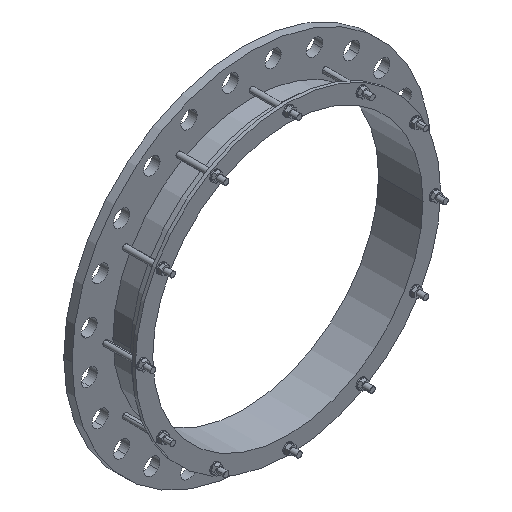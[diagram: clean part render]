
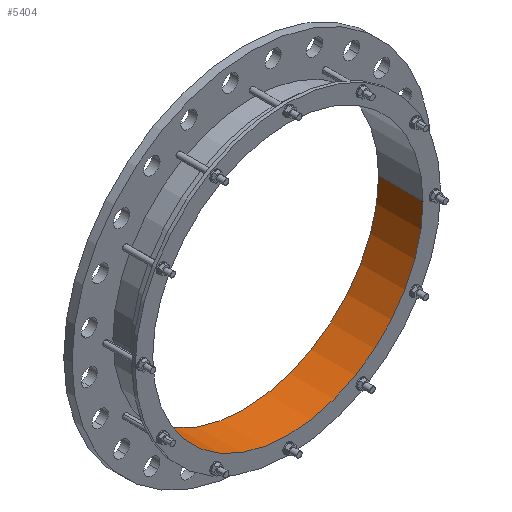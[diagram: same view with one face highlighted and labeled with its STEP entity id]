
A CAD part, isometric view. The second image highlights one B-rep face of the part: STEP entity #5404.
In plain terms, the highlighted cylindrical face has radius 408 mm (diameter 816 mm), a partial arc.
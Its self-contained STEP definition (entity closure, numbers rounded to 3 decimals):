
#7=CARTESIAN_POINT('',(0.,25.,0.));
#8=DIRECTION('',(0.,1.,0.));
#9=DIRECTION('',(1.,0.,0.));
#10=AXIS2_PLACEMENT_3D('',#7,#8,#9);
#1481=CARTESIAN_POINT('',(0.,-109.,0.));
#1482=DIRECTION('',(0.,1.,0.));
#1483=DIRECTION('',(1.,0.,0.));
#1484=AXIS2_PLACEMENT_3D('',#1481,#1482,#1483);
#1486=DIRECTION('',(0.,1.,0.));
#1487=VECTOR('',#1486,134.);
#1488=CARTESIAN_POINT('',(408.,-109.,0.));
#1489=LINE('',#1488,#1487);
#1490=DIRECTION('',(0.,1.,0.));
#1491=VECTOR('',#1490,134.);
#1492=CARTESIAN_POINT('',(-408.,-109.,0.));
#1493=LINE('',#1492,#1491);
#3676=CARTESIAN_POINT('',(408.,-109.,0.));
#3677=CARTESIAN_POINT('',(408.,25.,0.));
#3678=VERTEX_POINT('',#3676);
#3679=VERTEX_POINT('',#3677);
#3688=CARTESIAN_POINT('',(-408.,-109.,0.));
#3689=CARTESIAN_POINT('',(-408.,25.,0.));
#3690=VERTEX_POINT('',#3688);
#3691=VERTEX_POINT('',#3689);
#5391=CARTESIAN_POINT('',(0.,-115.7,0.));
#5392=DIRECTION('',(0.,1.,0.));
#5393=DIRECTION('',(-1.,0.,0.));
#5394=AXIS2_PLACEMENT_3D('',#5391,#5392,#5393);
#5395=CYLINDRICAL_SURFACE('',#5394,408.);
#5397=ORIENTED_EDGE('',*,*,#5396,.F.);
#5398=ORIENTED_EDGE('',*,*,#5314,.T.);
#5400=ORIENTED_EDGE('',*,*,#5399,.T.);
#5401=ORIENTED_EDGE('',*,*,#4517,.F.);
#5402=EDGE_LOOP('',(#5397,#5398,#5400,#5401));
#5403=FACE_OUTER_BOUND('',#5402,.F.);
#5404=ADVANCED_FACE('',(#5403),#5395,.F.);
#11=CIRCLE('',#10,408.);
#1485=CIRCLE('',#1484,408.);
#4517=EDGE_CURVE('',#3679,#3691,#11,.T.);
#5314=EDGE_CURVE('',#3678,#3690,#1485,.T.);
#5396=EDGE_CURVE('',#3678,#3679,#1489,.T.);
#5399=EDGE_CURVE('',#3690,#3691,#1493,.T.);
